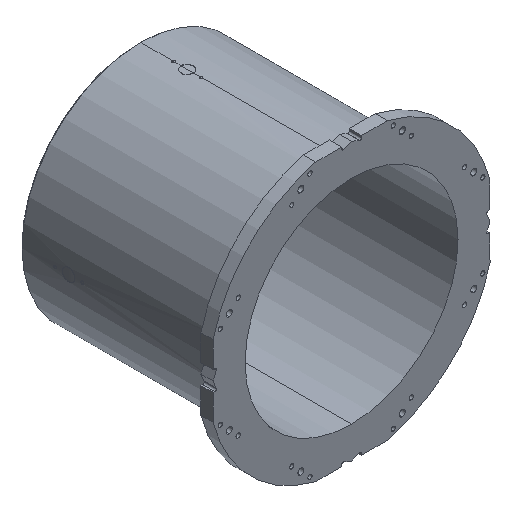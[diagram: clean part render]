
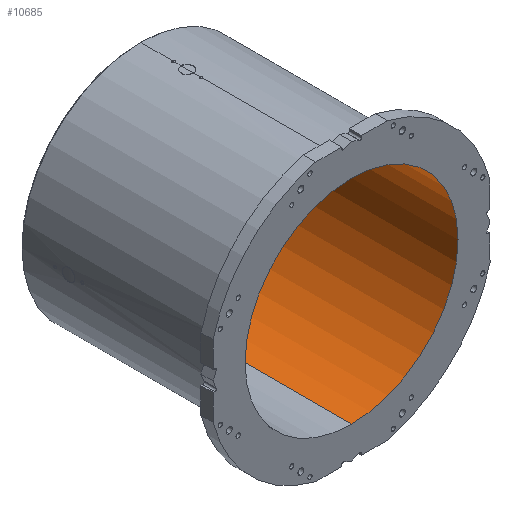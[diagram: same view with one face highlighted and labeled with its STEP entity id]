
A CAD part, isometric view. The second image highlights one B-rep face of the part: STEP entity #10685.
In plain terms, the highlighted cylindrical face has radius 350 mm (diameter 700 mm), a partial arc.
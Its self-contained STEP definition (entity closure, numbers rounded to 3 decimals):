
#37 = VERTEX_POINT ( 'NONE', #8938 ) ;
#59 = CARTESIAN_POINT ( 'NONE',  ( 0., 0., 350. ) ) ;
#153 = EDGE_CURVE ( 'NONE', #5444, #4163, #7609, .T. ) ;
#687 = AXIS2_PLACEMENT_3D ( 'NONE', #5260, #3241, #6153 ) ;
#697 = CARTESIAN_POINT ( 'NONE',  ( 0., 0., -350. ) ) ;
#761 = CARTESIAN_POINT ( 'NONE',  ( 0., 0., -350. ) ) ;
#1029 = EDGE_CURVE ( 'NONE', #37, #4163, #6409, .T. ) ;
#1260 = AXIS2_PLACEMENT_3D ( 'NONE', #2397, #1440, #12256 ) ;
#1440 = DIRECTION ( 'NONE',  ( 0., 1., 0. ) ) ;
#1720 = AXIS2_PLACEMENT_3D ( 'NONE', #2716, #12644, #7385 ) ;
#2306 = CARTESIAN_POINT ( 'NONE',  ( 0., 0., 350. ) ) ;
#2397 = CARTESIAN_POINT ( 'NONE',  ( 0., 663., 0. ) ) ;
#2407 = VECTOR ( 'NONE', #9306, 1000. ) ;
#2716 = CARTESIAN_POINT ( 'NONE',  ( 0., 0., 0. ) ) ;
#3241 = DIRECTION ( 'NONE',  ( 0., 1., 0. ) ) ;
#4163 = VERTEX_POINT ( 'NONE', #10290 ) ;
#4226 = CYLINDRICAL_SURFACE ( 'NONE', #687, 350. ) ;
#4891 = EDGE_CURVE ( 'NONE', #6316, #5444, #10818, .T. ) ;
#5260 = CARTESIAN_POINT ( 'NONE',  ( 0., 0., 0. ) ) ;
#5444 = VERTEX_POINT ( 'NONE', #697 ) ;
#5992 = EDGE_LOOP ( 'NONE', ( #9326, #8335, #6520, #10302 ) ) ;
#6153 = DIRECTION ( 'NONE',  ( 0., 0., 1. ) ) ;
#6316 = VERTEX_POINT ( 'NONE', #59 ) ;
#6409 = CIRCLE ( 'NONE', #1260, 350. ) ;
#6520 = ORIENTED_EDGE ( 'NONE', *, *, #8229, .T. ) ;
#7385 = DIRECTION ( 'NONE',  ( 0., 0., 1. ) ) ;
#7435 = VECTOR ( 'NONE', #11570, 1000. ) ;
#7609 = LINE ( 'NONE', #761, #7435 ) ;
#8229 = EDGE_CURVE ( 'NONE', #6316, #37, #12350, .T. ) ;
#8335 = ORIENTED_EDGE ( 'NONE', *, *, #4891, .F. ) ;
#8938 = CARTESIAN_POINT ( 'NONE',  ( 0., 663., 350. ) ) ;
#9306 = DIRECTION ( 'NONE',  ( 0., 1., 0. ) ) ;
#9326 = ORIENTED_EDGE ( 'NONE', *, *, #153, .F. ) ;
#10290 = CARTESIAN_POINT ( 'NONE',  ( 0., 663., -350. ) ) ;
#10302 = ORIENTED_EDGE ( 'NONE', *, *, #1029, .T. ) ;
#10685 = ADVANCED_FACE ( 'NONE', ( #11150 ), #4226, .F. ) ;
#10818 = CIRCLE ( 'NONE', #1720, 350. ) ;
#11150 = FACE_OUTER_BOUND ( 'NONE', #5992, .T. ) ;
#11570 = DIRECTION ( 'NONE',  ( 0., 1., 0. ) ) ;
#12256 = DIRECTION ( 'NONE',  ( 0., 0., 1. ) ) ;
#12350 = LINE ( 'NONE', #2306, #2407 ) ;
#12644 = DIRECTION ( 'NONE',  ( 0., 1., 0. ) ) ;
